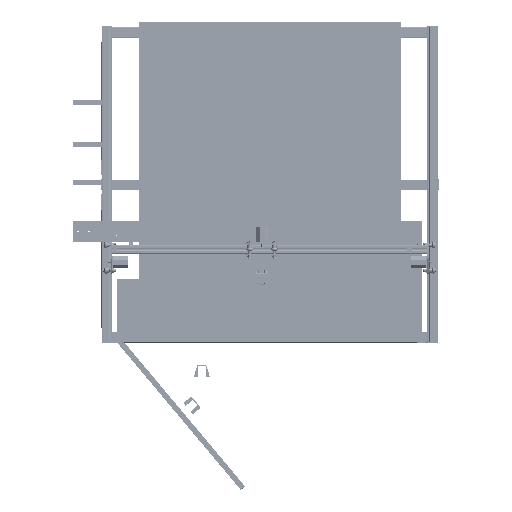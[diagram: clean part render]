
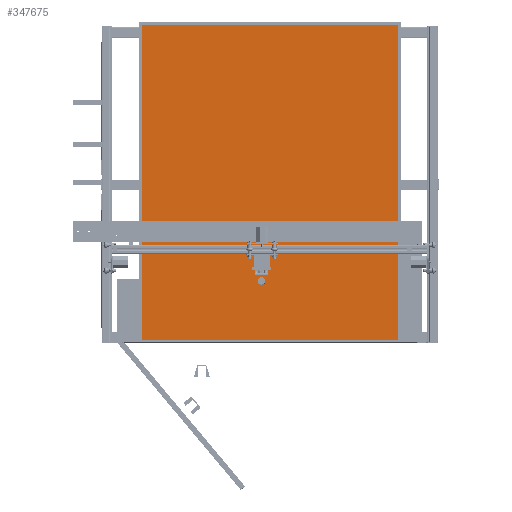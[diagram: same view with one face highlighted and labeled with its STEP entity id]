
A CAD part, top view. The second image highlights one B-rep face of the part: STEP entity #347675.
In plain terms, the highlighted planar face has unit normal (0, 0, 1).
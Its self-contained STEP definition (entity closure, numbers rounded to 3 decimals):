
#32598=PLANE('',#379882);
#55632=FACE_OUTER_BOUND('',#79603,.T.);
#79603=EDGE_LOOP('',(#321072,#321073,#321074,#321075));
#112508=LINE('',#848350,#145488);
#112511=LINE('',#848356,#145491);
#112514=LINE('',#848362,#145494);
#112517=LINE('',#848366,#145497);
#145488=VECTOR('',#474357,10.);
#145491=VECTOR('',#474362,10.);
#145494=VECTOR('',#474367,10.);
#145497=VECTOR('',#474372,10.);
#176943=VERTEX_POINT('',#848347);
#176944=VERTEX_POINT('',#848349);
#176946=VERTEX_POINT('',#848355);
#176948=VERTEX_POINT('',#848361);
#224995=EDGE_CURVE('',#176944,#176943,#112508,.T.);
#224998=EDGE_CURVE('',#176946,#176944,#112511,.T.);
#225001=EDGE_CURVE('',#176948,#176946,#112514,.T.);
#225004=EDGE_CURVE('',#176943,#176948,#112517,.T.);
#321072=ORIENTED_EDGE('',*,*,#225004,.T.);
#321073=ORIENTED_EDGE('',*,*,#225001,.T.);
#321074=ORIENTED_EDGE('',*,*,#224998,.T.);
#321075=ORIENTED_EDGE('',*,*,#224995,.T.);
#347675=ADVANCED_FACE('',(#55632),#32598,.T.);
#379882=AXIS2_PLACEMENT_3D('',#848367,#474373,#474374);
#474357=DIRECTION('',(1.,0.,0.));
#474362=DIRECTION('',(0.,-1.,0.));
#474367=DIRECTION('',(-1.,0.,0.));
#474372=DIRECTION('',(0.,1.,0.));
#474373=DIRECTION('center_axis',(0.,0.,1.));
#474374=DIRECTION('ref_axis',(0.,-1.,0.));
#848347=CARTESIAN_POINT('',(609.6,-1500.,-749.));
#848349=CARTESIAN_POINT('',(-609.6,-1500.,-749.));
#848350=CARTESIAN_POINT('',(-609.6,-1500.,-749.));
#848355=CARTESIAN_POINT('',(-609.6,0.,-749.));
#848356=CARTESIAN_POINT('',(-609.6,0.,-749.));
#848361=CARTESIAN_POINT('',(609.6,0.,-749.));
#848362=CARTESIAN_POINT('',(609.6,0.,-749.));
#848366=CARTESIAN_POINT('',(609.6,-1500.,-749.));
#848367=CARTESIAN_POINT('Origin',(0.,-750.,-749.));
